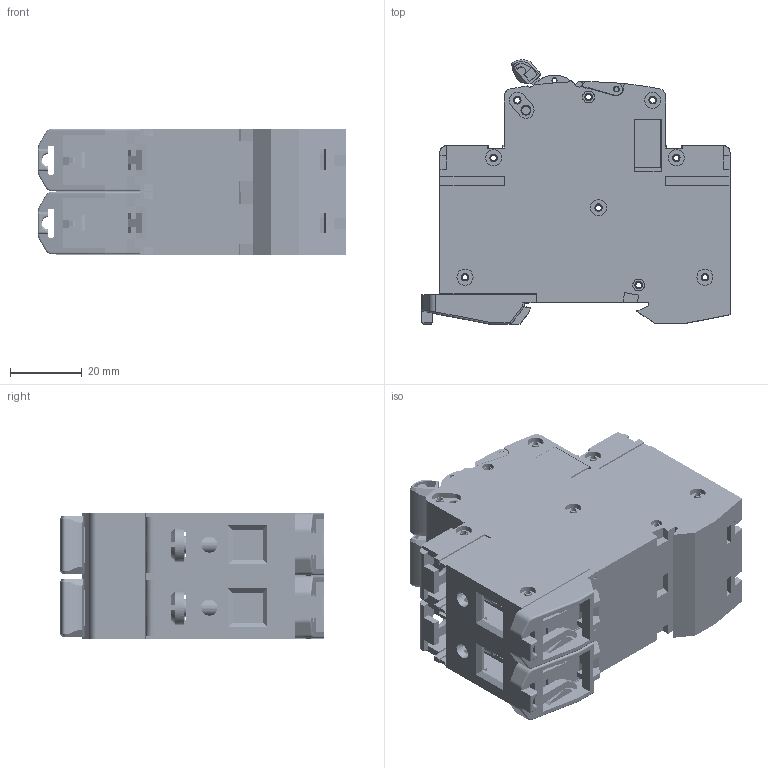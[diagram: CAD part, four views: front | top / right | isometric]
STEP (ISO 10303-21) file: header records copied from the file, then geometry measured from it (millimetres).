
FILE_DESCRIPTION (( 'STEP AP203' ), '1' );
FILE_NAME ('BKN-b 2P三维外形.STEP', '2016-03-18T04:30:58', ( 'User' ), ( 'Company' ), 'SwSTEP 2.0', 'SolidWorks 2013', '' );
FILE_SCHEMA (( 'CONFIG_CONTROL_DESIGN' ));
Length unit declared in the file: millimetre
Products named in the file (16): 8YJ.315.4301; BKN-b 三维外形; 8YJ.148.4300; BKN-b  2P三维外形; 8YJ.321.4300; 8JV.233.31600; 8JV.024.31600; 8YJ.941.4300; 8JV.315.31600; 8YJ.288.4300(菴媼妗瞰); 8JV.253.31600; 8YJ.967.4300(默认); 8YJ.900.4300; hexagon socket set screws with cup point gb(GB_SOCKET_SET_TYPE4 M2.5X8-C); 8YJ.550.4301; 8YJ.322.4300
Assembly tree (49 placements, depth 3):
  BKN-b  2P三维外形
    8JV.024.31600
    8JV.315.31600
    8JV.253.31600
    8YJ.900.4300  x2
    8YJ.550.4301
    8YJ.315.4301
    8YJ.148.4300
    8YJ.321.4300
    8JV.233.31600
    8YJ.941.4300
    8YJ.288.4300(菴媼妗瞰)
    8YJ.967.4300(默认)  x9
    hexagon socket set screws with cup point gb(GB_SOCKET_SET_TYPE4 M2.5X8-C)
    8YJ.322.4300  x2
    BKN-b 三维外形
      8JV.024.31600
      8JV.315.31600
      8JV.253.31600
      8YJ.900.4300  x2
      8YJ.550.4301
      8YJ.315.4301
      8YJ.148.4300
      8YJ.321.4300
      8JV.233.31600
      8YJ.941.4300
      8YJ.288.4300(菴媼妗瞰)
      8YJ.967.4300(默认)  x9
      hexagon socket set screws with cup point gb(GB_SOCKET_SET_TYPE4 M2.5X8-C)
      8YJ.322.4300  x2
Bounding box: 86 x 73.82 x 35.25 mm (x, y, z)
Volume: 59225.7 mm3; surface area: 92514.5 mm2
Topology: 66 solids, 66 shells, 5670 faces, 15206 edges, 9890 vertices
Faces by surface type: plane 4036, cylinder 976, bspline 456, cone 202
Entity records: 107652 total; most frequent: CARTESIAN_POINT 39937, ORIENTED_EDGE 14404, DIRECTION 11910, EDGE_CURVE 7202, LINE 5432, VECTOR 5432, VERTEX_POINT 4710, AXIS2_PLACEMENT_3D 3239
